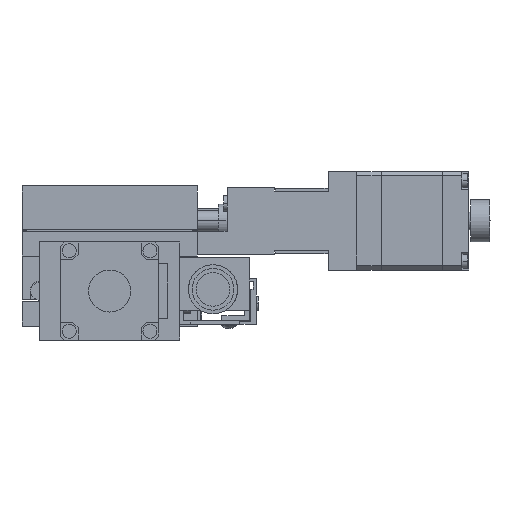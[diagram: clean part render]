
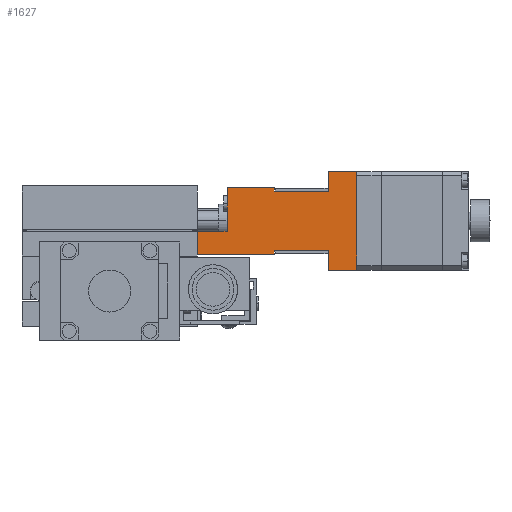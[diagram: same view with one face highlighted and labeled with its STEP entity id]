
A CAD part, left-side view. The second image highlights one B-rep face of the part: STEP entity #1627.
In plain terms, the highlighted planar face has unit normal (-1, 0, 0).
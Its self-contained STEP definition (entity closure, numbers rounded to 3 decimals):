
#1627=ADVANCED_FACE('',(#4077),#4078,.F.);
#4077=FACE_OUTER_BOUND('',#6813,.T.);
#4078=PLANE('',#6814);
#6813=EDGE_LOOP('',(#15595,#15596,#15597,#15598,#15599,#15600,#15601,#15602,#15603,#15604,#15605,#15606,#15607,#15608));
#6814=AXIS2_PLACEMENT_3D('',#15609,#15610,#15611);
#15595=ORIENTED_EDGE('',*,*,#20320,.F.);
#15596=ORIENTED_EDGE('',*,*,#20321,.T.);
#15597=ORIENTED_EDGE('',*,*,#20322,.F.);
#15598=ORIENTED_EDGE('',*,*,#20323,.F.);
#15599=ORIENTED_EDGE('',*,*,#20324,.T.);
#15600=ORIENTED_EDGE('',*,*,#20325,.T.);
#15601=ORIENTED_EDGE('',*,*,#20326,.F.);
#15602=ORIENTED_EDGE('',*,*,#20327,.F.);
#15603=ORIENTED_EDGE('',*,*,#20328,.T.);
#15604=ORIENTED_EDGE('',*,*,#20329,.T.);
#15605=ORIENTED_EDGE('',*,*,#20330,.F.);
#15606=ORIENTED_EDGE('',*,*,#20331,.T.);
#15607=ORIENTED_EDGE('',*,*,#20332,.F.);
#15608=ORIENTED_EDGE('',*,*,#20333,.F.);
#15609=CARTESIAN_POINT('',(-20.,-62.5,39.5));
#15610=DIRECTION('',(1.0,0.,0.));
#15611=DIRECTION('',(0.,0.,-1.0));
#20320=EDGE_CURVE('',#25301,#25302,#25303,.T.);
#20321=EDGE_CURVE('',#25301,#25304,#25305,.T.);
#20322=EDGE_CURVE('',#25306,#25304,#25307,.T.);
#20323=EDGE_CURVE('',#25308,#25306,#25309,.T.);
#20324=EDGE_CURVE('',#25308,#25310,#25311,.T.);
#20325=EDGE_CURVE('',#25310,#25312,#25313,.T.);
#20326=EDGE_CURVE('',#25314,#25312,#25315,.T.);
#20327=EDGE_CURVE('',#25316,#25314,#25317,.T.);
#20328=EDGE_CURVE('',#25316,#25318,#25319,.T.);
#20329=EDGE_CURVE('',#25318,#25320,#25321,.T.);
#20330=EDGE_CURVE('',#25322,#25320,#25323,.T.);
#20331=EDGE_CURVE('',#25322,#25324,#25325,.T.);
#20332=EDGE_CURVE('',#25326,#25324,#25327,.T.);
#20333=EDGE_CURVE('',#25302,#25326,#25328,.T.);
#25301=VERTEX_POINT('',#32372);
#25302=VERTEX_POINT('',#32373);
#25303=LINE('',#32374,#32375);
#25304=VERTEX_POINT('',#32376);
#25305=LINE('',#32377,#32378);
#25306=VERTEX_POINT('',#32379);
#25307=LINE('',#32380,#32381);
#25308=VERTEX_POINT('',#32382);
#25309=LINE('',#32383,#32384);
#25310=VERTEX_POINT('',#32385);
#25311=LINE('',#32386,#32387);
#25312=VERTEX_POINT('',#32388);
#25313=LINE('',#32389,#32390);
#25314=VERTEX_POINT('',#32391);
#25315=LINE('',#32392,#32393);
#25316=VERTEX_POINT('',#32394);
#25317=LINE('',#32395,#32396);
#25318=VERTEX_POINT('',#32397);
#25319=LINE('',#32398,#32399);
#25320=VERTEX_POINT('',#32400);
#25321=LINE('',#32401,#32402);
#25322=VERTEX_POINT('',#32403);
#25323=LINE('',#32404,#32405);
#25324=VERTEX_POINT('',#32406);
#25325=LINE('',#32407,#32408);
#25326=VERTEX_POINT('',#32409);
#25327=LINE('',#32410,#32411);
#25328=LINE('',#32412,#32413);
#32372=CARTESIAN_POINT('',(-20.,-62.5,21.5));
#32373=CARTESIAN_POINT('',(-20.,-47.,21.5));
#32374=CARTESIAN_POINT('',(-20.,-62.5,21.5));
#32375=VECTOR('',#38290,1000.0);
#32376=CARTESIAN_POINT('',(-20.,-62.5,16.0));
#32377=CARTESIAN_POINT('',(-20.,-62.5,44.0));
#32378=VECTOR('',#38291,1000.0);
#32379=CARTESIAN_POINT('',(-20.,-70.5,16.0));
#32380=CARTESIAN_POINT('',(-20.,-70.5,16.0));
#32381=VECTOR('',#38292,1000.0);
#32382=CARTESIAN_POINT('',(-20.,-70.5,44.0));
#32383=CARTESIAN_POINT('',(-20.,-70.5,44.0));
#32384=VECTOR('',#38293,1000.0);
#32385=CARTESIAN_POINT('',(-20.,-62.5,44.0));
#32386=CARTESIAN_POINT('',(-20.,-70.5,44.0));
#32387=VECTOR('',#38294,1000.0);
#32388=CARTESIAN_POINT('',(-20.,-62.5,38.5));
#32389=CARTESIAN_POINT('',(-20.,-62.5,44.0));
#32390=VECTOR('',#38295,1000.0);
#32391=CARTESIAN_POINT('',(-20.,-47.,38.5));
#32392=CARTESIAN_POINT('',(-20.,-47.,38.5));
#32393=VECTOR('',#38296,1000.0);
#32394=CARTESIAN_POINT('',(-20.,-47.,39.5));
#32395=CARTESIAN_POINT('',(-20.,-47.,39.5));
#32396=VECTOR('',#38297,1000.0);
#32397=CARTESIAN_POINT('',(-20.,-33.5,39.5));
#32398=CARTESIAN_POINT('',(-20.,-62.5,39.5));
#32399=VECTOR('',#38298,1000.0);
#32400=CARTESIAN_POINT('',(-20.,-33.5,27.0));
#32401=CARTESIAN_POINT('',(-20.,-33.5,39.5));
#32402=VECTOR('',#38299,1000.0);
#32403=CARTESIAN_POINT('',(-20.,-25.,27.0));
#32404=CARTESIAN_POINT('',(-20.,-25.,27.0));
#32405=VECTOR('',#38300,1000.0);
#32406=CARTESIAN_POINT('',(-20.,-25.,20.5));
#32407=CARTESIAN_POINT('',(-20.,-25.,27.0));
#32408=VECTOR('',#38301,1000.0);
#32409=CARTESIAN_POINT('',(-20.,-47.,20.5));
#32410=CARTESIAN_POINT('',(-20.,-62.5,20.5));
#32411=VECTOR('',#38302,1000.0);
#32412=CARTESIAN_POINT('',(-20.,-47.,21.5));
#32413=VECTOR('',#38303,1000.0);
#38290=DIRECTION('',(0.,1.0,0.0));
#38291=DIRECTION('',(0.,0.,-1.0));
#38292=DIRECTION('',(0.,1.0,0.));
#38293=DIRECTION('',(0.,0.,-1.0));
#38294=DIRECTION('',(0.,1.0,0.));
#38295=DIRECTION('',(0.,0.,-1.0));
#38296=DIRECTION('',(0.,-1.0,0.0));
#38297=DIRECTION('',(0.,0.,-1.0));
#38298=DIRECTION('',(0.,1.0,0.0));
#38299=DIRECTION('',(0.,0.,-1.0));
#38300=DIRECTION('',(0.,-1.0,0.0));
#38301=DIRECTION('',(0.,0.,-1.0));
#38302=DIRECTION('',(0.,1.0,0.0));
#38303=DIRECTION('',(0.,0.,-1.0));
